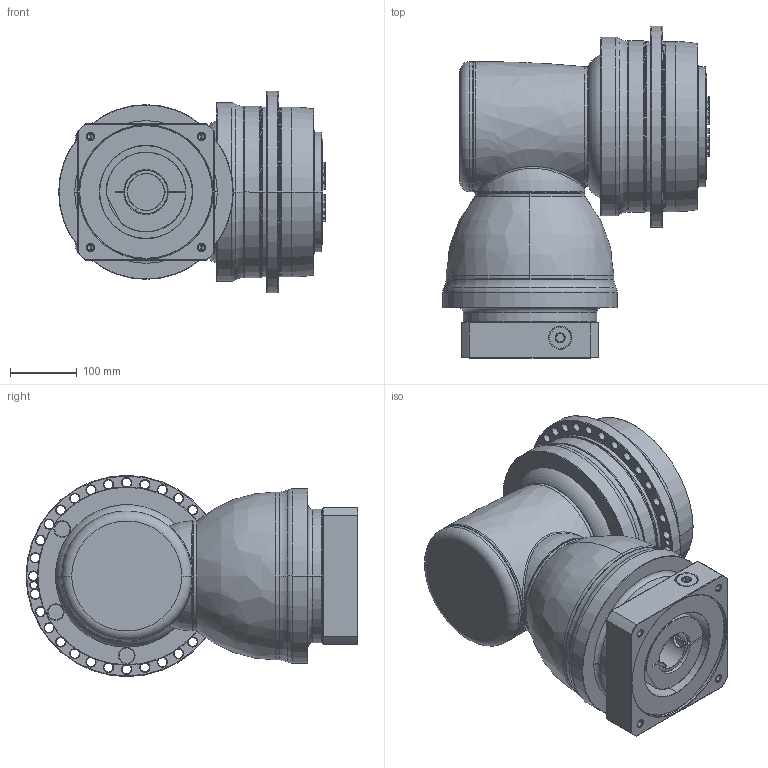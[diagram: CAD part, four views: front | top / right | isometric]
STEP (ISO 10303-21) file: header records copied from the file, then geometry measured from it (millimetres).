
FILE_DESCRIPTION((''),'2;1');
FILE_NAME('APCK255_2ST_SBG_55-P0409C00201_ASM','2018-05-21T',('d01226'),(''),'PRO/ENGINEER BY PARAMETRIC TECHNOLOGY CORPORATION, 2008410','PRO/ENGINEER BY PARAMETRIC TECHNOLOGY CORPORATION, 2008410','');
FILE_SCHEMA(('CONFIG_CONTROL_DESIGN'));
Length unit declared in the file: millimetre
Products named in the file (13): P0278701003; P0359770103; P1211700001; P1802710001; P1018700002; P1365700001; P1007701001; P1318701401; P0409C00201; P0503C00016; P0912704001; 21711426021; APCK255_2ST_SBG_55-P0409C00201_ASM
Assembly tree (12 placements, depth 2):
  APCK255_2ST_SBG_55-P0409C00201_ASM
    P0278701003
    P0359770103
    P1211700001
    P1802710001
    P1018700002
    P1365700001
    P1007701001
    P1318701401
    P0409C00201
    P0503C00016
    P0912704001
    21711426021
Bounding box: 400.1 x 498 x 302 mm (x, y, z)
Volume: 24198026.1 mm3; surface area: 1513037.4 mm2
Topology: 13 solids, 25 shells, 857 faces, 2063 edges, 1264 vertices
Faces by surface type: cone 277, cylinder 269, plane 154, torus 125, bspline 31, sphere 1
Entity records: 32046 total; most frequent: CARTESIAN_POINT 11452, DIRECTION 4625, ORIENTED_EDGE 4048, EDGE_CURVE 2049, AXIS2_PLACEMENT_3D 2026, VERTEX_POINT 1264, CIRCLE 1163, EDGE_LOOP 987
